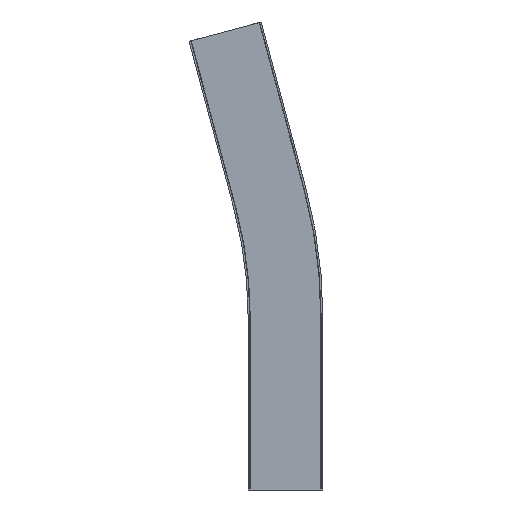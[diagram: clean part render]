
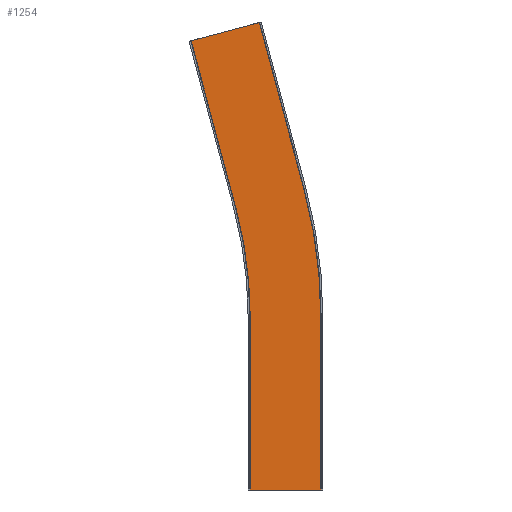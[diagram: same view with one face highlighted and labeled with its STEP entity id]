
A CAD part, front view. The second image highlights one B-rep face of the part: STEP entity #1254.
In plain terms, the highlighted planar face has unit normal (0, -1, 0).
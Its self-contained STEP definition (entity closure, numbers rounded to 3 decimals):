
#9 = CARTESIAN_POINT ( 'NONE',  ( -82.058, -42., 390.484 ) ) ;
#43 = ORIENTED_EDGE ( 'NONE', *, *, #1799, .T. ) ;
#48 = ORIENTED_EDGE ( 'NONE', *, *, #1919, .T. ) ;
#75 = CARTESIAN_POINT ( 'NONE',  ( 15.976, -42., 261.46 ) ) ;
#87 = CARTESIAN_POINT ( 'NONE',  ( -43.235, -42., 245.595 ) ) ;
#151 = AXIS2_PLACEMENT_3D ( 'NONE', #422, #2409, #1195 ) ;
#207 = EDGE_LOOP ( 'NONE', ( #1345, #2516, #48, #43, #489, #555, #1978, #819 ) ) ;
#214 = CARTESIAN_POINT ( 'NONE',  ( -22.847, -42., 406.349 ) ) ;
#316 = VERTEX_POINT ( 'NONE', #1743 ) ;
#339 = DIRECTION ( 'NONE',  ( 0., 0., -1. ) ) ;
#364 = LINE ( 'NONE', #860, #2787 ) ;
#422 = CARTESIAN_POINT ( 'NONE',  ( -400., -42., 150. ) ) ;
#489 = ORIENTED_EDGE ( 'NONE', *, *, #3127, .T. ) ;
#555 = ORIENTED_EDGE ( 'NONE', *, *, #929, .F. ) ;
#608 = CARTESIAN_POINT ( 'NONE',  ( -30.65, -42., 150. ) ) ;
#664 = PLANE ( 'NONE',  #2671 ) ;
#691 = CIRCLE ( 'NONE', #151, 369.35 ) ;
#776 = AXIS2_PLACEMENT_3D ( 'NONE', #1235, #1975, #961 ) ;
#819 = ORIENTED_EDGE ( 'NONE', *, *, #2777, .T. ) ;
#823 = LINE ( 'NONE', #75, #1617 ) ;
#860 = CARTESIAN_POINT ( 'NONE',  ( -30.65, -42., 0. ) ) ;
#863 = VECTOR ( 'NONE', #2340, 1000. ) ;
#898 = LINE ( 'NONE', #2524, #2672 ) ;
#917 = VECTOR ( 'NONE', #2188, 1000. ) ;
#929 = EDGE_CURVE ( 'NONE', #2036, #2736, #898, .T. ) ;
#961 = DIRECTION ( 'NONE',  ( 0., 0., -1. ) ) ;
#1101 = CARTESIAN_POINT ( 'NONE',  ( 15.976, -42., 261.46 ) ) ;
#1126 = EDGE_CURVE ( 'NONE', #1475, #2329, #2365, .T. ) ;
#1172 = VECTOR ( 'NONE', #339, 1000. ) ;
#1195 = DIRECTION ( 'NONE',  ( 0., 0., -1. ) ) ;
#1235 = CARTESIAN_POINT ( 'NONE',  ( -400., -42., 150. ) ) ;
#1254 = ADVANCED_FACE ( 'NONE', ( #1274 ), #664, .T. ) ;
#1274 = FACE_OUTER_BOUND ( 'NONE', #207, .T. ) ;
#1343 = DIRECTION ( 'NONE',  ( -0.259, 0., 0.966 ) ) ;
#1345 = ORIENTED_EDGE ( 'NONE', *, *, #2358, .F. ) ;
#1366 = CARTESIAN_POINT ( 'NONE',  ( 30.65, -42., 150. ) ) ;
#1475 = VERTEX_POINT ( 'NONE', #2889 ) ;
#1522 = DIRECTION ( 'NONE',  ( -0.259, 0., 0.966 ) ) ;
#1617 = VECTOR ( 'NONE', #1343, 1000. ) ;
#1647 = DIRECTION ( 'NONE',  ( 1., 0., 0. ) ) ;
#1659 = CARTESIAN_POINT ( 'NONE',  ( -30.65, -42., 150. ) ) ;
#1711 = LINE ( 'NONE', #9, #917 ) ;
#1743 = CARTESIAN_POINT ( 'NONE',  ( -30.65, -42., 0. ) ) ;
#1799 = EDGE_CURVE ( 'Edge42', #2504, #1832, #823, .T. ) ;
#1832 = VERTEX_POINT ( 'NONE', #214 ) ;
#1846 = CARTESIAN_POINT ( 'NONE',  ( 30.65, -42., 0. ) ) ;
#1919 = EDGE_CURVE ( 'Edge18', #1475, #2504, #2441, .T. ) ;
#1975 = DIRECTION ( 'NONE',  ( 0., -1., 0. ) ) ;
#1978 = ORIENTED_EDGE ( 'NONE', *, *, #2780, .F. ) ;
#2036 = VERTEX_POINT ( 'NONE', #87 ) ;
#2061 = LINE ( 'NONE', #2751, #1172 ) ;
#2188 = DIRECTION ( 'NONE',  ( -0.966, 0., -0.259 ) ) ;
#2329 = VERTEX_POINT ( 'NONE', #1846 ) ;
#2340 = DIRECTION ( 'NONE',  ( 0., 0., -1. ) ) ;
#2343 = VERTEX_POINT ( 'NONE', #608 ) ;
#2358 = EDGE_CURVE ( 'NONE', #2329, #316, #364, .T. ) ;
#2365 = LINE ( 'NONE', #1366, #863 ) ;
#2409 = DIRECTION ( 'NONE',  ( 0., -1., 0. ) ) ;
#2441 = CIRCLE ( 'NONE', #776, 430.65 ) ;
#2504 = VERTEX_POINT ( 'NONE', #1101 ) ;
#2516 = ORIENTED_EDGE ( 'NONE', *, *, #1126, .F. ) ;
#2524 = CARTESIAN_POINT ( 'NONE',  ( -43.235, -42., 245.595 ) ) ;
#2540 = DIRECTION ( 'NONE',  ( -1., 0., 0. ) ) ;
#2645 = CARTESIAN_POINT ( 'NONE',  ( -82.058, -42., 390.484 ) ) ;
#2671 = AXIS2_PLACEMENT_3D ( 'NONE', #1659, #3094, #1647 ) ;
#2672 = VECTOR ( 'NONE', #1522, 1000. ) ;
#2736 = VERTEX_POINT ( 'NONE', #2645 ) ;
#2751 = CARTESIAN_POINT ( 'NONE',  ( -30.65, -42., 150. ) ) ;
#2777 = EDGE_CURVE ( 'NONE', #2343, #316, #2061, .T. ) ;
#2780 = EDGE_CURVE ( 'NONE', #2343, #2036, #691, .T. ) ;
#2787 = VECTOR ( 'NONE', #2540, 1000. ) ;
#2889 = CARTESIAN_POINT ( 'NONE',  ( 30.65, -42., 150. ) ) ;
#3094 = DIRECTION ( 'NONE',  ( 0., -1., 0. ) ) ;
#3127 = EDGE_CURVE ( 'NONE', #1832, #2736, #1711, .T. ) ;
